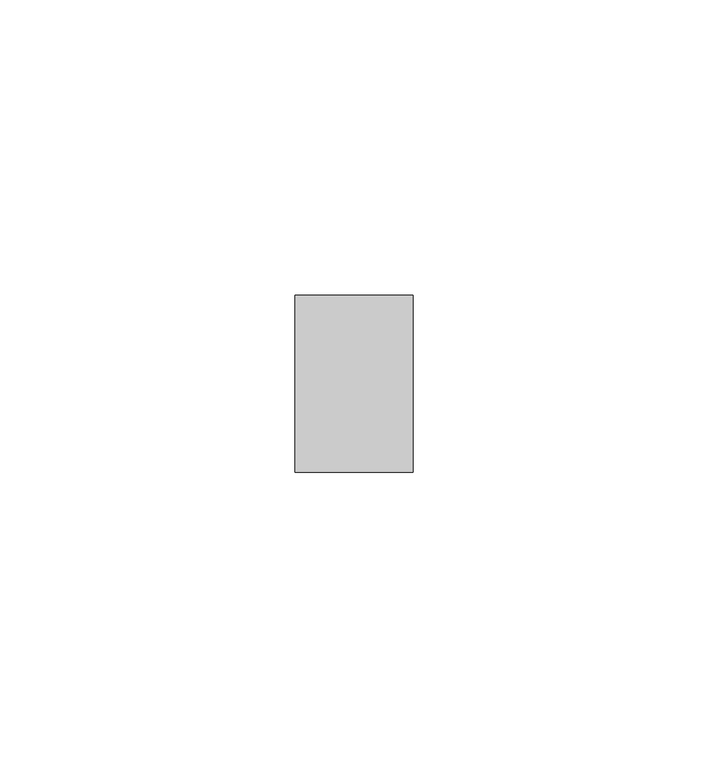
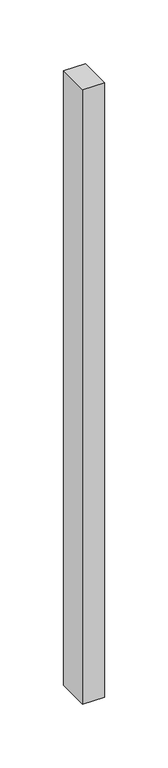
"""IFC4 building model written with IfcOpenShell, lengths in millimetres: member geometry, Прямоугольный импост : Квадрат 10 мм - Зазор между навесными плитами."""

from ifc_helpers import new_model, si_unit, frame, origin, place, context, project, spatial, polyline, outline, extrude, source, transform, mapped, element, save


def member_afe3d29c(model_context):
    return source(origin(), model_context, "Body", "SweptSolid", [
        extrude(outline(polyline([(10.0, 15.0), (10.0, -15.0), (-10.0, -15.0), (-10.0, 15.0), (10.0, 15.0)])), frame((0.0, 0.0, -590.0), z_axis=(0.0, 0.0, 1.0), x_axis=(1.0, 0.0, 0.0)), (0.0, 0.0, 1.0), 590.0),
    ])


if __name__ == "__main__":
    model = new_model("IFC4")
    model_context = context("Model", 3, world=origin())
    ifc_project = project(units=[si_unit("LENGTHUNIT", "METRE", prefix="MILLI")], contexts=[model_context])
    site = spatial("IfcSite", under=ifc_project)
    building = spatial("IfcBuilding", under=site)
    placement = place(None, origin())
    member_shape = member_afe3d29c(model_context)
    element("IfcMember", 1, ObjectType="Прямоугольный импост : Квадрат 10 мм - Зазор между навесными плитами", at=placement, inside=building, context=model_context, shape_type="MappedRepresentation", body=[
        mapped(member_shape, transform((0.0, 0.0, 0.0), x_axis=(1.0, 0.0, 0.0), y_axis=(0.0, 1.0, 0.0), z_axis=(0.0, 0.0, 1.0))),
    ])
    save(model, "model.ifc")
